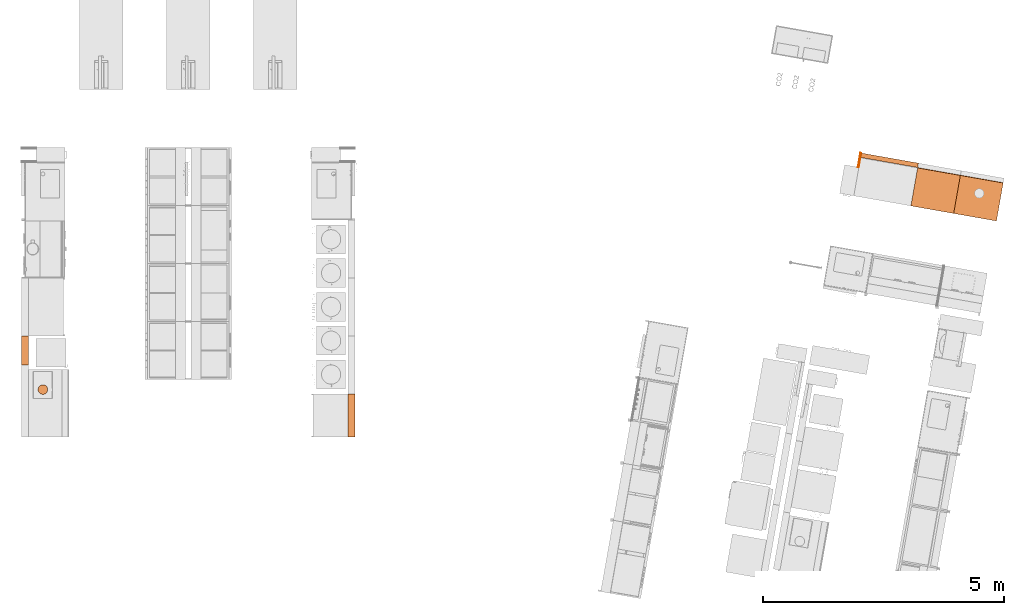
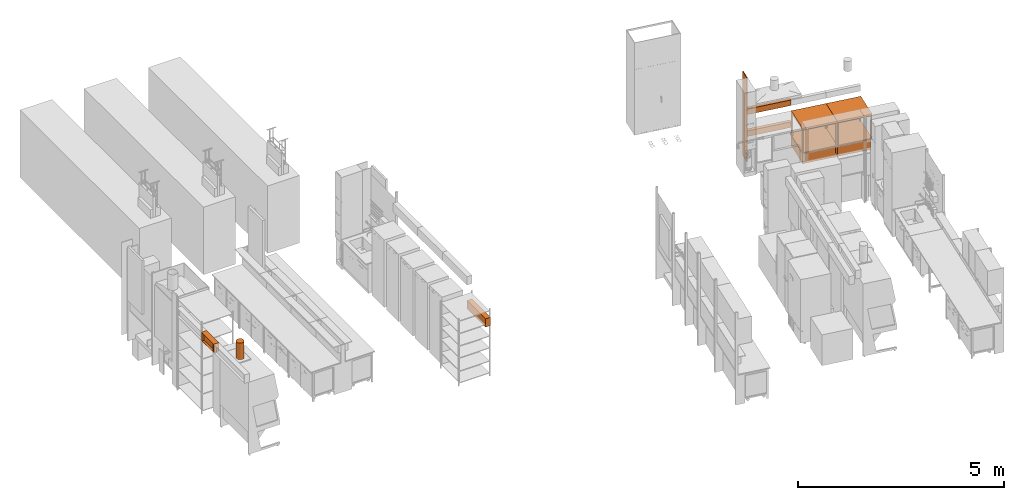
# One storey, part 36 of 43: 10 proxies.
"""IFC2X3 building model written with IfcOpenShell, lengths in metres."""

from ifc_helpers import new_model, entity, si_unit, converted_unit, derived_unit, direction, frame, frame_2d, origin, origin_2d_with_axis, place, context, subcontext, project, spatial, rectangle, circle, extrude, faceted_brep, source, transform, mapped, material, material_list, type_object, type_shapes, element, save


model = new_model("IFC2X3")

# Units and contexts
model_context = context("Model", 3, precision=1e-05, world=origin(), true_north=direction((6.12303176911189e-17, 1.0)))
body_context = subcontext(model_context, "Body", "Model", "MODEL_VIEW")
ifc_project = project(units=[si_unit("LENGTHUNIT", "METRE"), si_unit("AREAUNIT", "SQUARE_METRE"), si_unit("VOLUMEUNIT", "CUBIC_METRE"), converted_unit("PLANEANGLEUNIT", "DEGREE", entity("IfcRatioMeasure", 0.0174532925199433), si_unit("PLANEANGLEUNIT", "RADIAN"), dimensions=[0, 0, 0, 0, 0, 0, 0]), si_unit("MASSUNIT", "GRAM", prefix="KILO"), derived_unit("MASSDENSITYUNIT", [(si_unit("MASSUNIT", "GRAM", prefix="KILO"), 1), (si_unit("LENGTHUNIT", "METRE"), -3)]), derived_unit("MOMENTOFINERTIAUNIT", [(si_unit("LENGTHUNIT", "METRE"), 4)]), si_unit("TIMEUNIT", "SECOND"), si_unit("FREQUENCYUNIT", "HERTZ"), si_unit("THERMODYNAMICTEMPERATUREUNIT", "DEGREE_CELSIUS"), derived_unit("THERMALTRANSMITTANCEUNIT", [(si_unit("MASSUNIT", "GRAM", prefix="KILO"), 1), (si_unit("THERMODYNAMICTEMPERATUREUNIT", "KELVIN"), -1), (si_unit("TIMEUNIT", "SECOND"), -3)]), derived_unit("VOLUMETRICFLOWRATEUNIT", [(si_unit("LENGTHUNIT", "METRE"), 3), (si_unit("TIMEUNIT", "SECOND"), -1)]), si_unit("ELECTRICCURRENTUNIT", "AMPERE"), si_unit("ELECTRICVOLTAGEUNIT", "VOLT"), si_unit("POWERUNIT", "WATT"), si_unit("FORCEUNIT", "NEWTON", prefix="KILO"), si_unit("ILLUMINANCEUNIT", "LUX"), si_unit("LUMINOUSFLUXUNIT", "LUMEN"), si_unit("LUMINOUSINTENSITYUNIT", "CANDELA"), derived_unit("USERDEFINED", [(si_unit("MASSUNIT", "GRAM", prefix="KILO"), -1), (si_unit("LENGTHUNIT", "METRE"), -2), (si_unit("TIMEUNIT", "SECOND"), 3), (si_unit("LUMINOUSFLUXUNIT", "LUMEN"), 1)]), derived_unit("LINEARVELOCITYUNIT", [(si_unit("LENGTHUNIT", "METRE"), 1), (si_unit("TIMEUNIT", "SECOND"), -1)]), si_unit("PRESSUREUNIT", "PASCAL"), derived_unit("USERDEFINED", [(si_unit("LENGTHUNIT", "METRE"), -2), (si_unit("MASSUNIT", "GRAM", prefix="KILO"), 1), (si_unit("TIMEUNIT", "SECOND"), -2)]), derived_unit("LINEARFORCEUNIT", [(si_unit("MASSUNIT", "GRAM", prefix="KILO"), 1), (si_unit("LENGTHUNIT", "METRE"), 1), (si_unit("TIMEUNIT", "SECOND"), -2), (si_unit("LENGTHUNIT", "METRE"), -1)]), derived_unit("PLANARFORCEUNIT", [(si_unit("MASSUNIT", "GRAM", prefix="KILO"), 1), (si_unit("LENGTHUNIT", "METRE"), 1), (si_unit("TIMEUNIT", "SECOND"), -2), (si_unit("LENGTHUNIT", "METRE"), -2)])], contexts=[model_context])

# Site, building, storey
site_placement = place(None, origin())
site = spatial("IfcSite", under=ifc_project, at=site_placement, Name="Default", CompositionType="ELEMENT")
building_placement = place(site_placement, origin())
building = spatial("IfcBuilding", under=site, at=building_placement, CompositionType="ELEMENT")
storey_placement = place(building_placement, frame((0.0, 0.0, 3.0)))
storey = spatial("IfcBuildingStorey", under=building, at=storey_placement, Name="01 OG", CompositionType="ELEMENT", Elevation=3.0)

# Proxies
ifc_material_1 = material(Name="dh_Weiß")
building_element_proxy_type_1 = type_object("IfcBuildingElementProxyType", Name="dh_Einzel_ Elektrokanal:EK 120", PredefinedType="NOTDEFINED", material=ifc_material_1)
shared_shape_1 = source(origin(), body_context, "Body", "SweptSolid", [
    extrude(rectangle(XDim=1.20000000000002, YDim=0.093, at=frame_2d((-3.88578058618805e-16, -1.73472347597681e-17), x_axis=(1.0, 0.0))), frame((0.0, 0.2535, 1.24999999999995)), (0.0, 0.0, 1.0), 0.00499999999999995),
    extrude(rectangle(XDim=0.093, YDim=1.20000000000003, at=frame_2d((0.0155, -2.27595720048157e-15), x_axis=(1.0, 0.0))), frame((0.0, 0.269, 1.40999999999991), z_axis=(0.0, 0.0, 1.0), x_axis=(0.0, -1.0, 0.0)), (0.0, 0.0, 1.0), 0.00499999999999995),
    extrude(rectangle(XDim=1.2, YDim=0.093, at=frame_2d((0.0, 1.73472347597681e-17), x_axis=(1.0, 0.0))), frame((0.0, 0.2535, 1.25499999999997), z_axis=(0.0, 0.0, 1.0), x_axis=(-1.0, 0.0, 0.0)), (0.0, 0.0, 1.0), 0.154999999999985),
])
type_shapes(building_element_proxy_type_1, [shared_shape_1])
proxy_1_placement = place(storey_placement, frame((28.0827453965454, 15.8105403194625, 0.0), z_axis=(0.0, 0.0, 1.0), x_axis=(0.98480775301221, -0.173648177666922, 0.0)))
element("IfcBuildingElementProxy", 1, at=proxy_1_placement, inside=storey, type_object=building_element_proxy_type_1, material=ifc_material_1, Name="dh_Einzel_ Elektrokanal:EK 120", ObjectType="dh_Einzel_ Elektrokanal:EK 120", context=body_context, shape_type="MappedRepresentation", body=[
    mapped(shared_shape_1, transform((0.0, 0.0, 0.0), scale=1.0)),
])
ifc_material_2 = material(Name="dh_EZ blau")
ifc_material_list_1 = material_list([ifc_material_1, ifc_material_2])
ifc_material_list_2 = material_list([ifc_material_2, ifc_material_1])
building_element_proxy_type_2 = type_object("IfcBuildingElementProxyType", Name="dh_Tieftisch:dh_Tieftisch", PredefinedType="NOTDEFINED", material=ifc_material_list_2)
shared_shape_2 = source(origin(), body_context, "Body", "Brep", [
    faceted_brep([(0.449999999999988, 0.425, 0.379999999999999), (-0.450000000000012, 0.425, 0.380000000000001), (-0.450000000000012, -0.475, 0.380000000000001), (0.449999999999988, -0.475, 0.379999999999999), (0.449999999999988, 0.425, 0.349999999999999), (0.449999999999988, -0.475, 0.349999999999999), (-0.450000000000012, -0.475, 0.350000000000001), (-0.450000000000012, 0.425, 0.350000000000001)], [[[0, 1, 2, 3]], [[4, 5, 6, 7]], [[1, 0, 4, 7]], [[2, 1, 7, 6]], [[3, 2, 6, 5]], [[0, 3, 5, 4]]]),
    faceted_brep([(0.425000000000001, 0.425, 0.349999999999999), (-0.424999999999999, 0.425, 0.350000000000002), (-0.424999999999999, -0.425, 0.350000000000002), (0.425000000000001, -0.425, 0.349999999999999), (0.395000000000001, 0.395, 0.349999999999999), (0.395000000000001, -0.395, 0.349999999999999), (-0.395, -0.395, 0.350000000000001), (-0.395, 0.395, 0.350000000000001), (-0.395, 0.395, 0.320000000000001), (-0.395, -0.395, 0.320000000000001), (-0.424999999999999, -0.395, 0.320000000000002), (-0.424999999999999, 0.395, 0.320000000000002), (0.425, 0.425, 0.0), (0.395, 0.425, 0.0), (0.395, 0.425, 0.319999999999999), (-0.395, 0.425, 0.32), (-0.395, 0.425, 0.0), (-0.425, 0.425, 0.0), (-0.425, 0.395, 0.0), (-0.425, -0.395, 0.0), (-0.425, -0.425, 0.0), (-0.395, -0.425, 0.0), (-0.395, -0.425, 0.320000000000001), (0.395, -0.425, 0.32), (0.395, -0.425, 0.0), (0.425, -0.425, 0.0), (0.425, -0.395, 0.0), (0.425000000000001, -0.395, 0.319999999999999), (0.425000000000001, 0.395, 0.32), (0.425, 0.395, 0.0), (0.395000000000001, 0.395, 0.319999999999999), (0.395000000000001, -0.395, 0.319999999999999), (-0.395, -0.395, 0.0), (-0.395, 0.395, 0.0), (0.395, 0.395, 0.0), (0.395, -0.395, 0.0)], [[[0, 1, 2, 3], [4, 5, 6, 7]], [[8, 9, 10, 11]], [[1, 0, 12, 13, 14, 15, 16, 17]], [[2, 1, 17, 18, 11, 10, 19, 20]], [[3, 2, 20, 21, 22, 23, 24, 25]], [[12, 0, 3, 25, 26, 27, 28, 29]], [[5, 4, 30, 31]], [[6, 5, 31, 9]], [[7, 6, 9, 8]], [[4, 7, 8, 30]], [[21, 20, 19, 32]], [[18, 33, 8, 11]], [[33, 16, 15, 8]], [[13, 34, 30, 14]], [[34, 29, 28, 30]], [[21, 32, 9, 22]], [[32, 19, 10, 9]], [[26, 35, 31, 27]], [[35, 24, 23, 31]], [[16, 33, 18, 17]], [[24, 35, 26, 25]], [[13, 12, 29, 34]], [[9, 31, 23, 22]], [[30, 8, 15, 14]], [[31, 30, 28, 27]]]),
    faceted_brep([(-0.425, -0.395, 0.32), (-0.420000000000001, -0.395, 0.32), (-0.420000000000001, 0.395, 0.32), (-0.425, 0.395, 0.32), (-0.425, -0.395, 0.0149999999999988), (-0.420000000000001, -0.395, 0.0149999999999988), (-0.420000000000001, 0.395, 0.0149999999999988), (-0.425, 0.395, 0.0149999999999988)], [[[0, 1, 2, 3]], [[1, 0, 4, 5]], [[2, 1, 5, 6]], [[3, 2, 6, 7]], [[0, 3, 7, 4]], [[4, 7, 6, 5]]]),
    faceted_brep([(0.425, 0.395, 0.0149999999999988), (0.425, -0.395, 0.0149999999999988), (0.42, -0.395, 0.0149999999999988), (0.42, 0.395, 0.0149999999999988), (0.42, 0.395, 0.32), (0.425, 0.395, 0.32), (0.42, -0.395, 0.32), (0.425, -0.395, 0.32)], [[[0, 1, 2, 3]], [[4, 5, 0, 3]], [[6, 4, 3, 2]], [[7, 6, 2, 1]], [[5, 7, 1, 0]], [[5, 4, 6, 7]]]),
    faceted_brep([(0.395, -0.420000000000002, 0.32), (0.395, -0.425, 0.32), (0.395, -0.425, 0.0149999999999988), (0.395, -0.420000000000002, 0.0149999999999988), (-0.395, -0.420000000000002, 0.32), (-0.395, -0.420000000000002, 0.0149999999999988), (-0.395, -0.425, 0.32), (-0.395, -0.425, 0.0149999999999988)], [[[0, 1, 2, 3]], [[4, 0, 3, 5]], [[6, 4, 5, 7]], [[1, 6, 7, 2]], [[2, 7, 5, 3]], [[1, 0, 4, 6]]]),
])
type_shapes(building_element_proxy_type_2, [shared_shape_2])
proxy_2_placement = place(storey_placement, frame((29.0950875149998, 15.5051087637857, 0.0), z_axis=(0.0, 0.0, 1.0), x_axis=(0.984807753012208, -0.173648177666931, 0.0)))
element("IfcBuildingElementProxy", 2, at=proxy_2_placement, inside=storey, type_object=building_element_proxy_type_2, material=ifc_material_list_1, Name="dh_Tieftisch:dh_Tieftisch", ObjectType="dh_Tieftisch:dh_Tieftisch", context=body_context, shape_type="MappedRepresentation", body=[
    mapped(shared_shape_2, transform((0.0, 0.0, 0.0), scale=1.0)),
])
ifc_material_list_3 = material_list([ifc_material_1, ifc_material_2])
proxy_3_placement = place(storey_placement, frame((29.9814144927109, 15.3488254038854, 0.0), z_axis=(0.0, 0.0, 1.0), x_axis=(0.984807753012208, -0.173648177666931, 0.0)))
element("IfcBuildingElementProxy", 3, at=proxy_3_placement, inside=storey, type_object=building_element_proxy_type_2, material=ifc_material_list_3, Name="dh_Tieftisch:dh_Tieftisch", ObjectType="dh_Tieftisch:dh_Tieftisch", context=body_context, shape_type="MappedRepresentation", body=[
    mapped(shared_shape_2, transform((0.0, 0.0, 0.0), scale=1.0)),
])
ifc_material_3 = material(Name="Schwarz")
ifc_material_list_4 = material_list([ifc_material_1, ifc_material_2, ifc_material_3])
ifc_material_list_5 = material_list([ifc_material_3, ifc_material_1])
building_element_proxy_type_3 = type_object("IfcBuildingElementProxyType", Name="dh_Tisch:dh_Tisch", PredefinedType="NOTDEFINED", material=ifc_material_list_5)
shared_shape_3 = source(origin(), body_context, "Body", "Brep", [
    faceted_brep([(0.450000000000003, 0.0, 0.749999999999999), (-0.449999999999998, 0.0, 0.750000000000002), (-0.449999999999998, -0.8, 0.750000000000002), (0.450000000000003, -0.8, 0.749999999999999), (0.450000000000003, 0.0, 0.719999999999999), (0.450000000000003, -0.8, 0.719999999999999), (-0.449999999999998, -0.8, 0.720000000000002), (-0.449999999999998, 0.0, 0.720000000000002)], [[[0, 1, 2, 3]], [[4, 5, 6, 7]], [[1, 0, 4, 7]], [[2, 1, 7, 6]], [[3, 2, 6, 5]], [[0, 3, 5, 4]]]),
    faceted_brep([(0.420000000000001, -0.8, 0.00499999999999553), (0.420000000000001, -0.770000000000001, 0.00499999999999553), (0.45, -0.770000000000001, 0.00499999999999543), (0.45, -0.8, 0.00499999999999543), (-0.45, -0.0299999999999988, 0.00499999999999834), (-0.42, -0.0299999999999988, 0.00499999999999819), (-0.419999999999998, -0.0299999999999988, 0.690000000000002), (-0.449999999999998, -0.0299999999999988, 0.690000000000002), (-0.42, 0.0, 0.00499999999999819), (-0.419999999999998, 0.0, 0.690000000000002), (-0.45, 0.0, 0.00499999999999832), (-0.449999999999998, 0.0, 0.720000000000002), (0.450000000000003, 0.0, 0.719999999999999), (0.45, 0.0, 0.00499999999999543), (0.420000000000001, 0.0, 0.00499999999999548), (0.420000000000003, 0.0, 0.689999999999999), (-0.449999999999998, -0.770000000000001, 0.690000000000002), (-0.45, -0.770000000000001, 0.00499999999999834), (-0.45, -0.8, 0.00499999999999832), (-0.449999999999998, -0.8, 0.720000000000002), (0.420000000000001, -0.0299999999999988, 0.00499999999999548), (0.420000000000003, -0.0299999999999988, 0.689999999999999), (0.45, -0.0299999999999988, 0.00499999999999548), (0.450000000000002, -0.0299999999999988, 0.689999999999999), (0.450000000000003, -0.8, 0.719999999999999), (0.450000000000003, -0.770000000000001, 0.689999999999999), (-0.42, -0.8, 0.00499999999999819), (-0.419999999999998, -0.8, 0.690000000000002), (0.420000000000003, -0.8, 0.689999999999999), (0.420000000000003, -0.770000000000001, 0.689999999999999), (-0.42, -0.770000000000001, 0.00499999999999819), (-0.419999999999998, -0.770000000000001, 0.690000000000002), (0.420000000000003, -0.0299999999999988, 0.719999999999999), (0.420000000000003, -0.770000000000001, 0.719999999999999), (-0.419999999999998, -0.770000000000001, 0.720000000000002), (-0.419999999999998, -0.0299999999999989, 0.720000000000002)], [[[0, 1, 2, 3]], [[4, 5, 6, 7]], [[5, 8, 9, 6]], [[8, 10, 11, 12, 13, 14, 15, 9]], [[11, 10, 4, 7, 16, 17, 18, 19]], [[14, 20, 21, 15]], [[20, 22, 23, 21]], [[22, 13, 12, 24, 3, 2, 25, 23]], [[0, 3, 24, 19, 18, 26, 27, 28]], [[2, 1, 29, 25]], [[1, 0, 28, 29]], [[26, 30, 31, 27]], [[30, 17, 16, 31]], [[12, 11, 19, 24], [32, 33, 34, 35]], [[6, 31, 16, 7]], [[33, 32, 21, 29]], [[34, 33, 29, 31]], [[35, 34, 31, 6]], [[32, 35, 6, 21]], [[31, 29, 28, 27]], [[21, 6, 9, 15]], [[29, 21, 23, 25]], [[14, 13, 22, 20]], [[4, 10, 8, 5]], [[17, 30, 26, 18]]]),
    faceted_brep([(-0.45, -0.8, 0.00499999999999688), (-0.42, -0.8, 0.00499999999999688), (-0.42, -0.770000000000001, 0.00499999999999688), (-0.45, -0.770000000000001, 0.00499999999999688), (-0.45, -0.8, 0.0), (-0.42, -0.8, 0.0), (-0.42, -0.770000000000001, 0.0), (-0.45, -0.770000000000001, 0.0)], [[[0, 1, 2, 3]], [[1, 0, 4, 5]], [[2, 1, 5, 6]], [[3, 2, 6, 7]], [[0, 3, 7, 4]], [[4, 7, 6, 5]]]),
    faceted_brep([(0.420000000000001, -0.8, 0.0), (0.420000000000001, -0.770000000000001, 0.0), (0.45, -0.770000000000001, 0.0), (0.45, -0.8, 0.0), (0.45, -0.8, 0.00499999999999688), (0.420000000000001, -0.8, 0.00499999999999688), (0.45, -0.770000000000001, 0.00499999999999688), (0.420000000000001, -0.770000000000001, 0.00499999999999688)], [[[0, 1, 2, 3]], [[4, 5, 0, 3]], [[6, 4, 3, 2]], [[7, 6, 2, 1]], [[5, 7, 1, 0]], [[5, 4, 6, 7]]]),
    faceted_brep([(-0.42, -0.0299999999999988, 0.00499999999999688), (-0.45, -0.0299999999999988, 0.00499999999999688), (-0.45, -0.0299999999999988, 0.0), (-0.42, -0.0299999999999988, 0.0), (-0.42, 0.0, 0.00499999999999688), (-0.42, 0.0, 0.0), (-0.45, 0.0, 0.00499999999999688), (-0.45, 0.0, 0.0)], [[[0, 1, 2, 3]], [[4, 0, 3, 5]], [[6, 4, 5, 7]], [[1, 6, 7, 2]], [[2, 7, 5, 3]], [[1, 0, 4, 6]]]),
    faceted_brep([(0.45, -0.0299999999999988, 0.00499999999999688), (0.420000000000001, -0.0299999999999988, 0.00499999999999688), (0.420000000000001, -0.0299999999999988, 0.0), (0.45, -0.0299999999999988, 0.0), (0.45, 0.0, 0.00499999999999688), (0.45, 0.0, 0.0), (0.420000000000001, 0.0, 0.00499999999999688), (0.420000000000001, 0.0, 0.0)], [[[0, 1, 2, 3]], [[4, 0, 3, 5]], [[6, 4, 5, 7]], [[1, 6, 7, 2]], [[2, 7, 5, 3]], [[1, 0, 4, 6]]]),
])
type_shapes(building_element_proxy_type_3, [shared_shape_3])
proxy_4_placement = place(storey_placement, frame((29.1515231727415, 15.8251712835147, 0.35), z_axis=(0.0, 0.0, 1.0), x_axis=(0.984807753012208, -0.173648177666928, 0.0)))
element("IfcBuildingElementProxy", 4, at=proxy_4_placement, inside=storey, type_object=building_element_proxy_type_3, material=ifc_material_list_4, Name="dh_Tisch:dh_Tisch", ObjectType="dh_Tisch:dh_Tisch", context=body_context, shape_type="MappedRepresentation", body=[
    mapped(shared_shape_3, transform((0.0, 0.0, 0.0), scale=1.0)),
])
ifc_material_list_6 = material_list([ifc_material_1, ifc_material_2, ifc_material_3])
proxy_5_placement = place(storey_placement, frame((30.0378501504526, 15.6688879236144, 0.35), z_axis=(0.0, 0.0, 1.0), x_axis=(0.984807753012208, -0.173648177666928, 0.0)))
element("IfcBuildingElementProxy", 5, at=proxy_5_placement, inside=storey, type_object=building_element_proxy_type_3, material=ifc_material_list_6, Name="dh_Tisch:dh_Tisch", ObjectType="dh_Tisch:dh_Tisch", context=body_context, shape_type="MappedRepresentation", body=[
    mapped(shared_shape_3, transform((0.0, 0.0, 0.0), scale=1.0)),
])
building_element_proxy_type_4 = type_object("IfcBuildingElementProxyType", Name="dh_Einzel_ Elektrokanal:EK 120", PredefinedType="NOTDEFINED", material=ifc_material_1)
shared_shape_4 = source(origin(), body_context, "Body", "SweptSolid", [
    extrude(rectangle(XDim=1.20000000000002, YDim=0.093, at=frame_2d((-3.88578058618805e-16, -1.73472347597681e-17), x_axis=(1.0, 0.0))), frame((0.0, 0.2535, 0.599999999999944)), (0.0, 0.0, 1.0), 0.00500000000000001),
    extrude(rectangle(XDim=0.093, YDim=1.20000000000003, at=frame_2d((0.0155, -2.27595720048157e-15), x_axis=(1.0, 0.0))), frame((0.0, 0.269, 0.759999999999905), z_axis=(0.0, 0.0, 1.0), x_axis=(0.0, -1.0, 0.0)), (0.0, 0.0, 1.0), 0.00499999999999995),
    extrude(rectangle(XDim=1.2, YDim=0.093, at=frame_2d((0.0, 1.73472347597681e-17), x_axis=(1.0, 0.0))), frame((0.0, 0.2535, 0.604999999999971), z_axis=(0.0, 0.0, 1.0), x_axis=(-1.0, 0.0, 0.0)), (0.0, 0.0, 1.0), 0.154999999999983),
])
type_shapes(building_element_proxy_type_4, [shared_shape_4])
proxy_6_placement = place(storey_placement, frame((28.0827453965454, 15.8105403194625, 0.0), z_axis=(0.0, 0.0, 1.0), x_axis=(0.984807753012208, -0.173648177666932, 0.0)))
element("IfcBuildingElementProxy", 6, at=proxy_6_placement, inside=storey, type_object=building_element_proxy_type_4, material=ifc_material_1, Name="dh_Einzel_ Elektrokanal:EK 120", ObjectType="dh_Einzel_ Elektrokanal:EK 120", context=body_context, shape_type="MappedRepresentation", body=[
    mapped(shared_shape_4, transform((0.0, 0.0, 0.0), scale=1.0)),
])
ifc_material_list_7 = material_list([ifc_material_2, ifc_material_1])
ifc_material_4 = material(Name="dh_Blau")
ifc_material_list_8 = material_list([ifc_material_1, ifc_material_4, ifc_material_2])
building_element_proxy_type_5 = type_object("IfcBuildingElementProxyType", Name="dh_Einzel_ MEK:MEK 90", PredefinedType="NOTDEFINED", material=ifc_material_list_8)
shared_shape_5 = source(origin(), body_context, "Body", "SweptSolid", [
    extrude(rectangle(XDim=0.06, YDim=0.0299999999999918, at=origin_2d_with_axis()), frame((0.285000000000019, 0.33, 2.19499999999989), z_axis=(0.0, 0.0, 1.0), x_axis=(0.0, 1.0, 0.0)), (0.0, 0.0, 1.0), 0.240000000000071),
    extrude(rectangle(XDim=0.06, YDim=0.0299999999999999, at=origin_2d_with_axis()), frame((-0.584999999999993, 0.33, 2.19499999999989), z_axis=(0.0, 0.0, 1.0), x_axis=(0.0, 1.0, 0.0)), (0.0, 0.0, 1.0), 0.240000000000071),
    extrude(rectangle(XDim=0.06, YDim=0.900000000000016, at=origin_2d_with_axis()), frame((-0.149999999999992, 0.33, 2.43499999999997), z_axis=(0.0, 0.0, 1.0), x_axis=(0.0, 1.0, 0.0)), (0.0, 0.0, 1.0), 0.00500000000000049),
    extrude(rectangle(XDim=0.900000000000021, YDim=0.14, at=frame_2d((-2.58126853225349e-15, -0.00333333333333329), x_axis=(1.0, 0.0))), frame((-0.14999999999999, 0.293333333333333, 2.18999999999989)), (0.0, 0.0, 1.0), 0.00499999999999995),
    extrude(rectangle(XDim=0.08, YDim=0.900000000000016, at=frame_2d((0.0133333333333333, 2.38697950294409e-15), x_axis=(1.0, 0.0))), frame((-0.149999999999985, 0.273333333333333, 2.43499999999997), z_axis=(0.0, 0.0, 1.0), x_axis=(0.0, -1.0, 0.0)), (0.0, 0.0, 1.0), 0.00499999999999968),
    extrude(rectangle(XDim=0.9, YDim=0.08, at=frame_2d((0.0, 3.46944695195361e-17), x_axis=(1.0, 0.0))), frame((-0.15, 0.26, 2.195), z_axis=(0.0, 0.0, 1.0), x_axis=(-1.0, 0.0, 0.0)), (0.0, 0.0, 1.0), 0.239999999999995),
])
type_shapes(building_element_proxy_type_5, [shared_shape_5])
proxy_7_placement = place(storey_placement, frame((16.6900000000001, 10.6240000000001, 0.0), z_axis=(0.0, 0.0, 1.0), x_axis=(0.0, -1.0, 0.0)))
element("IfcBuildingElementProxy", 7, at=proxy_7_placement, inside=storey, type_object=building_element_proxy_type_5, material=ifc_material_list_7, Name="dh_Einzel_ MEK:MEK 90", ObjectType="dh_Einzel_ MEK:MEK 90", context=body_context, shape_type="MappedRepresentation", body=[
    mapped(shared_shape_5, transform((0.0, 0.0, 0.0), scale=1.0)),
])
ifc_material_list_9 = material_list([ifc_material_2, ifc_material_1])
ifc_material_list_10 = material_list([ifc_material_4, ifc_material_1, ifc_material_2])
building_element_proxy_type_6 = type_object("IfcBuildingElementProxyType", Name="dh_Einzel_ MEK:MEK 60", PredefinedType="NOTDEFINED", material=ifc_material_list_10)
shared_shape_6 = source(origin(), body_context, "Body", "SweptSolid", [
    extrude(rectangle(XDim=0.06, YDim=0.0299999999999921, at=origin_2d_with_axis()), frame((-0.0149999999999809, 0.33, 2.19499999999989), z_axis=(0.0, 0.0, 1.0), x_axis=(0.0, 1.0, 0.0)), (0.0, 0.0, 1.0), 0.240000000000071),
    extrude(rectangle(XDim=0.06, YDim=0.0299999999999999, at=origin_2d_with_axis()), frame((-0.584999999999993, 0.33, 2.19499999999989), z_axis=(0.0, 0.0, 1.0), x_axis=(0.0, 1.0, 0.0)), (0.0, 0.0, 1.0), 0.240000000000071),
    extrude(rectangle(XDim=0.06, YDim=0.600000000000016, at=origin_2d_with_axis()), frame((-0.299999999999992, 0.33, 2.43499999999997), z_axis=(0.0, 0.0, 1.0), x_axis=(0.0, 1.0, 0.0)), (0.0, 0.0, 1.0), 0.00500000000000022),
    extrude(rectangle(XDim=0.600000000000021, YDim=0.14, at=frame_2d((-2.60902410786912e-15, -0.00333333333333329), x_axis=(1.0, 0.0))), frame((-0.29999999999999, 0.293333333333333, 2.18999999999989)), (0.0, 0.0, 1.0), 0.00499999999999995),
    extrude(rectangle(XDim=0.08, YDim=0.600000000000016, at=frame_2d((0.0133333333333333, -2.77555756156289e-17), x_axis=(1.0, 0.0))), frame((-0.299999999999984, 0.273333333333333, 2.43499999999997), z_axis=(0.0, 0.0, 1.0), x_axis=(0.0, -1.0, 0.0)), (0.0, 0.0, 1.0), 0.00499999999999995),
    extrude(rectangle(XDim=0.6, YDim=0.08, at=frame_2d((0.0, 3.46944695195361e-17), x_axis=(1.0, 0.0))), frame((-0.3, 0.26, 2.195), z_axis=(0.0, 0.0, 1.0), x_axis=(-1.0, 0.0, 0.0)), (0.0, 0.0, 1.0), 0.239999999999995),
])
type_shapes(building_element_proxy_type_6, [shared_shape_6])
proxy_8_placement = place(storey_placement, frame((10.5100000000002, 12.4240000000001, 0.7), z_axis=(0.0, 0.0, 1.0), x_axis=(0.0, 1.0, 0.0)))
element("IfcBuildingElementProxy", 8, at=proxy_8_placement, inside=storey, type_object=building_element_proxy_type_6, material=ifc_material_list_9, Name="dh_Einzel_ MEK:MEK 60", ObjectType="dh_Einzel_ MEK:MEK 60", context=body_context, shape_type="MappedRepresentation", body=[
    mapped(shared_shape_6, transform((0.0, 0.0, 0.0), scale=1.0)),
])
ifc_material_5 = material(Name="dh_Chrom")
building_element_proxy_type_7 = type_object("IfcBuildingElementProxyType", Name="dh_Geräteabluft:dh_Geräteabluft", PredefinedType="NOTDEFINED", material=ifc_material_5)
shared_shape_7 = source(origin(), body_context, "Body", "SweptSolid", [
    extrude(circle(Radius=0.1, at=frame_2d((-1.25950294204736e-21, -1.69197988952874e-16), x_axis=(1.0, 0.0))), frame((0.0, -0.3, 2.2)), (0.0, 0.0, 1.0), 0.500000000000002),
])
type_shapes(building_element_proxy_type_7, [shared_shape_7])
proxy_9_placement = place(storey_placement, frame((10.2899999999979, 11.310829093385, 0.7), z_axis=(0.0, 0.0, 1.0), x_axis=(0.0, 1.0, 0.0)))
element("IfcBuildingElementProxy", 9, at=proxy_9_placement, inside=storey, type_object=building_element_proxy_type_7, material=ifc_material_5, Name="dh_Geräteabluft:dh_Geräteabluft", ObjectType="dh_Geräteabluft:dh_Geräteabluft", context=body_context, shape_type="MappedRepresentation", body=[
    mapped(shared_shape_7, transform((0.0, 0.0, 0.0), scale=1.0)),
])
building_element_proxy_type_8 = type_object("IfcBuildingElementProxyType", Name="dh_Blende:dh_Blende", PredefinedType="NOTDEFINED", material=ifc_material_1)
shared_shape_8 = source(origin(), body_context, "Body", "SweptSolid", [
    extrude(rectangle(XDim=0.299999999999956, YDim=0.02, at=origin_2d_with_axis()), frame((0.0, -0.00999999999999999, 0.0), z_axis=(0.0, 0.0, 1.0), x_axis=(-1.0, 0.0, 0.0)), (0.0, 0.0, 1.0), 2.5),
])
type_shapes(building_element_proxy_type_8, [shared_shape_8])
proxy_10_placement = place(storey_placement, frame((27.4982118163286, 16.0659233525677, 0.0), z_axis=(0.0, 0.0, 1.0), x_axis=(0.173648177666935, 0.984807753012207, 0.0)))
element("IfcBuildingElementProxy", 10, at=proxy_10_placement, inside=storey, type_object=building_element_proxy_type_8, material=ifc_material_1, Name="dh_Blende:dh_Blende", ObjectType="dh_Blende:dh_Blende", context=body_context, shape_type="MappedRepresentation", body=[
    mapped(shared_shape_8, transform((0.0, 0.0, 0.0), scale=1.0)),
])

save(model, "model.ifc")
